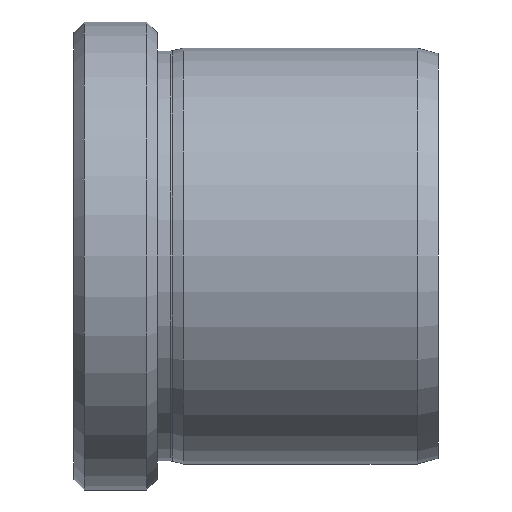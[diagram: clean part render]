
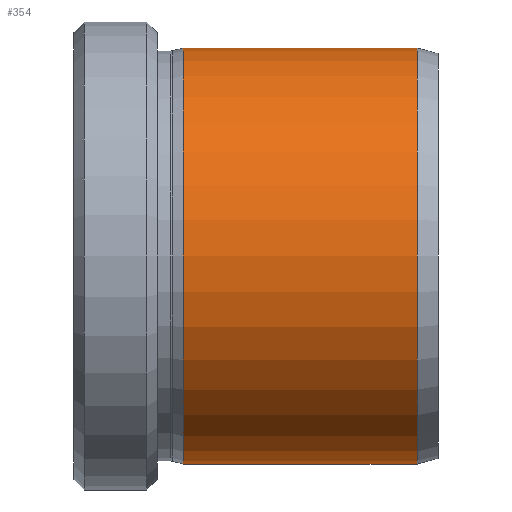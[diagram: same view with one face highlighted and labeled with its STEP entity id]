
A CAD part, front view. The second image highlights one B-rep face of the part: STEP entity #354.
In plain terms, the highlighted cylindrical face has radius 20 mm (diameter 40 mm), a partial arc.
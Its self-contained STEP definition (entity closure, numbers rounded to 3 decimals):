
#3 = EDGE_LOOP ( 'NONE', ( #441, #242, #87, #228 ) ) ;
#22 = VECTOR ( 'NONE', #183, 1000. ) ;
#41 = DIRECTION ( 'NONE',  ( 0., 0., 1. ) ) ;
#71 = DIRECTION ( 'NONE',  ( -1., 0., 0. ) ) ;
#77 = CARTESIAN_POINT ( 'NONE',  ( 43.8, 0., -20. ) ) ;
#80 = CARTESIAN_POINT ( 'NONE',  ( 21.3, 0., 0. ) ) ;
#87 = ORIENTED_EDGE ( 'NONE', *, *, #299, .T. ) ;
#93 = EDGE_CURVE ( 'NONE', #380, #553, #416, .T. ) ;
#95 = FACE_OUTER_BOUND ( 'NONE', #3, .T. ) ;
#111 = DIRECTION ( 'NONE',  ( -1., 0., 0. ) ) ;
#115 = AXIS2_PLACEMENT_3D ( 'NONE', #637, #628, #424 ) ;
#145 = LINE ( 'NONE', #367, #22 ) ;
#168 = CIRCLE ( 'NONE', #521, 20. ) ;
#183 = DIRECTION ( 'NONE',  ( -1., 0., 0. ) ) ;
#198 = CARTESIAN_POINT ( 'NONE',  ( 0., 0., -20. ) ) ;
#228 = ORIENTED_EDGE ( 'NONE', *, *, #633, .F. ) ;
#242 = ORIENTED_EDGE ( 'NONE', *, *, #523, .T. ) ;
#279 = CYLINDRICAL_SURFACE ( 'NONE', #115, 20. ) ;
#282 = CARTESIAN_POINT ( 'NONE',  ( 43.8, 0., 20. ) ) ;
#285 = VERTEX_POINT ( 'NONE', #282 ) ;
#299 = EDGE_CURVE ( 'NONE', #285, #495, #145, .T. ) ;
#348 = AXIS2_PLACEMENT_3D ( 'NONE', #438, #437, #531 ) ;
#354 = ADVANCED_FACE ( 'NONE', ( #95 ), #279, .T. ) ;
#367 = CARTESIAN_POINT ( 'NONE',  ( 0., 0., 20. ) ) ;
#380 = VERTEX_POINT ( 'NONE', #77 ) ;
#416 = LINE ( 'NONE', #198, #442 ) ;
#424 = DIRECTION ( 'NONE',  ( 0., 0., 1. ) ) ;
#437 = DIRECTION ( 'NONE',  ( -1., 0., 0. ) ) ;
#438 = CARTESIAN_POINT ( 'NONE',  ( 43.8, 0., 0. ) ) ;
#441 = ORIENTED_EDGE ( 'NONE', *, *, #93, .F. ) ;
#442 = VECTOR ( 'NONE', #111, 1000. ) ;
#468 = CARTESIAN_POINT ( 'NONE',  ( 21.3, 0., -20. ) ) ;
#473 = CARTESIAN_POINT ( 'NONE',  ( 21.3, 0., 20. ) ) ;
#495 = VERTEX_POINT ( 'NONE', #473 ) ;
#521 = AXIS2_PLACEMENT_3D ( 'NONE', #80, #71, #41 ) ;
#523 = EDGE_CURVE ( 'NONE', #380, #285, #574, .T. ) ;
#531 = DIRECTION ( 'NONE',  ( 0., 0., 1. ) ) ;
#553 = VERTEX_POINT ( 'NONE', #468 ) ;
#574 = CIRCLE ( 'NONE', #348, 20. ) ;
#628 = DIRECTION ( 'NONE',  ( -1., 0., 0. ) ) ;
#633 = EDGE_CURVE ( 'NONE', #553, #495, #168, .T. ) ;
#637 = CARTESIAN_POINT ( 'NONE',  ( 0., 0., 0. ) ) ;
